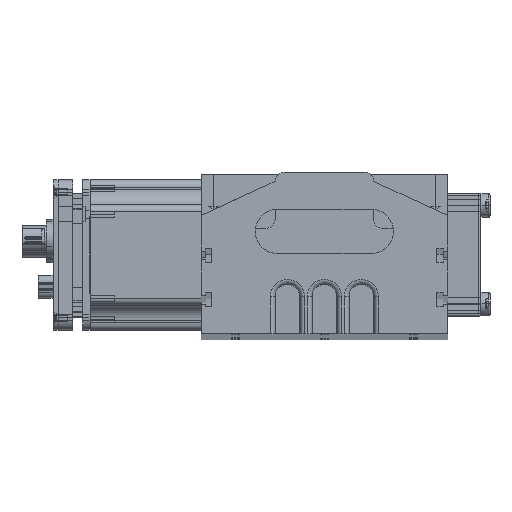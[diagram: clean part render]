
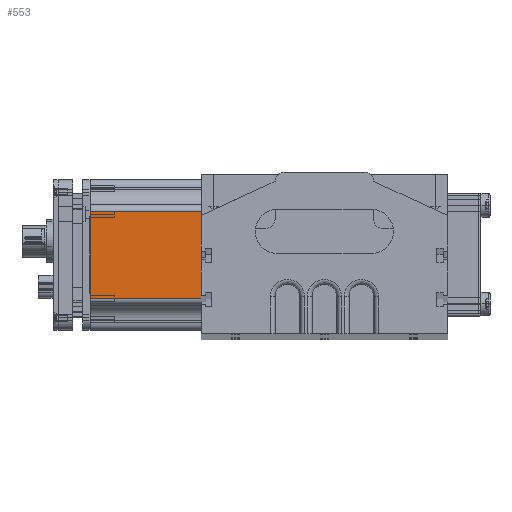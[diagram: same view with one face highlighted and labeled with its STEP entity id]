
A CAD part, top view. The second image highlights one B-rep face of the part: STEP entity #553.
In plain terms, the highlighted planar face has unit normal (0, 0, 1).
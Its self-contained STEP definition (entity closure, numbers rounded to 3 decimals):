
#393 = ORIENTED_EDGE ( 'NONE', *, *, #562, .F. ) ;
#399 = VERTEX_POINT ( 'NONE', #4356 ) ;
#440 = ORIENTED_EDGE ( 'NONE', *, *, #532, .T. ) ;
#481 = EDGE_LOOP ( 'NONE', ( #393, #536, #563, #440, #870, #711, #747, #786 ) ) ;
#532 = EDGE_CURVE ( 'NONE', #46144, #399, #4720, .T. ) ;
#536 = ORIENTED_EDGE ( 'NONE', *, *, #46679, .F. ) ;
#553 = ADVANCED_FACE ( 'NONE', ( #4796 ), #4682, .F. ) ;
#562 = EDGE_CURVE ( 'NONE', #46684, #576, #4854, .T. ) ;
#563 = ORIENTED_EDGE ( 'NONE', *, *, #45634, .F. ) ;
#576 = VERTEX_POINT ( 'NONE', #4840 ) ;
#711 = ORIENTED_EDGE ( 'NONE', *, *, #761, .F. ) ;
#733 = EDGE_CURVE ( 'NONE', #739, #767, #5341, .T. ) ;
#739 = VERTEX_POINT ( 'NONE', #5335 ) ;
#746 = EDGE_CURVE ( 'NONE', #576, #739, #5339, .T. ) ;
#747 = ORIENTED_EDGE ( 'NONE', *, *, #733, .F. ) ;
#761 = EDGE_CURVE ( 'NONE', #767, #787, #5385, .T. ) ;
#764 = EDGE_CURVE ( 'NONE', #787, #399, #5496, .T. ) ;
#767 = VERTEX_POINT ( 'NONE', #5421 ) ;
#786 = ORIENTED_EDGE ( 'NONE', *, *, #746, .F. ) ;
#787 = VERTEX_POINT ( 'NONE', #5446 ) ;
#870 = ORIENTED_EDGE ( 'NONE', *, *, #764, .F. ) ;
#4356 = CARTESIAN_POINT ( 'NONE',  ( 24.5, 0., 30.5 ) ) ;
#4682 = PLANE ( 'NONE',  #4780 ) ;
#4704 = DIRECTION ( 'NONE',  ( 1., 0., 0. ) ) ;
#4706 = VECTOR ( 'NONE', #4704, 1000. ) ;
#4707 = CARTESIAN_POINT ( 'NONE',  ( -24.5, 0., 30.5 ) ) ;
#4720 = LINE ( 'NONE', #4707, #4706 ) ;
#4727 = DIRECTION ( 'NONE',  ( 0., 0., -1. ) ) ;
#4758 = CARTESIAN_POINT ( 'NONE',  ( -17.5, 7., 30.5 ) ) ;
#4761 = DIRECTION ( 'NONE',  ( -1., 0., 0. ) ) ;
#4780 = AXIS2_PLACEMENT_3D ( 'NONE', #4799, #4727, #4761 ) ;
#4796 = FACE_OUTER_BOUND ( 'NONE', #481, .T. ) ;
#4799 = CARTESIAN_POINT ( 'NONE',  ( -24.5, 7., 30.5 ) ) ;
#4822 = DIRECTION ( 'NONE',  ( 0., 1., 0. ) ) ;
#4823 = VECTOR ( 'NONE', #4822, 1000. ) ;
#4840 = CARTESIAN_POINT ( 'NONE',  ( -17.5, 94., 30.5 ) ) ;
#4854 = LINE ( 'NONE', #4758, #4823 ) ;
#5329 = DIRECTION ( 'NONE',  ( 0., -1., 0. ) ) ;
#5330 = VECTOR ( 'NONE', #5329, 1000. ) ;
#5331 = CARTESIAN_POINT ( 'NONE',  ( 17.5, 95.35, 30.5 ) ) ;
#5335 = CARTESIAN_POINT ( 'NONE',  ( 17.5, 94., 30.5 ) ) ;
#5337 = CARTESIAN_POINT ( 'NONE',  ( 26.5, 94., 30.5 ) ) ;
#5339 = LINE ( 'NONE', #5337, #5436 ) ;
#5341 = LINE ( 'NONE', #5331, #5330 ) ;
#5379 = CARTESIAN_POINT ( 'NONE',  ( -24.5, 7., 30.5 ) ) ;
#5385 = LINE ( 'NONE', #5379, #5492 ) ;
#5421 = CARTESIAN_POINT ( 'NONE',  ( 17.5, 7., 30.5 ) ) ;
#5435 = DIRECTION ( 'NONE',  ( 1., 0., 0. ) ) ;
#5436 = VECTOR ( 'NONE', #5435, 1000. ) ;
#5446 = CARTESIAN_POINT ( 'NONE',  ( 24.5, 7., 30.5 ) ) ;
#5479 = DIRECTION ( 'NONE',  ( 0., -1., 0. ) ) ;
#5480 = VECTOR ( 'NONE', #5479, 1000. ) ;
#5491 = DIRECTION ( 'NONE',  ( 1., 0., 0. ) ) ;
#5492 = VECTOR ( 'NONE', #5491, 1000. ) ;
#5494 = CARTESIAN_POINT ( 'NONE',  ( 24.5, 7., 30.5 ) ) ;
#5496 = LINE ( 'NONE', #5494, #5480 ) ;
#6529 = DIRECTION ( 'NONE',  ( 0., 1., 0. ) ) ;
#6531 = VECTOR ( 'NONE', #6529, 1000. ) ;
#6533 = CARTESIAN_POINT ( 'NONE',  ( -24.5, 7., 30.5 ) ) ;
#6534 = LINE ( 'NONE', #6533, #6531 ) ;
#8204 = CARTESIAN_POINT ( 'NONE',  ( -24.5, 0., 30.5 ) ) ;
#9806 = CARTESIAN_POINT ( 'NONE',  ( -24.5, 7., 30.5 ) ) ;
#9809 = LINE ( 'NONE', #9919, #9918 ) ;
#9916 = DIRECTION ( 'NONE',  ( 1., 0., 0. ) ) ;
#9918 = VECTOR ( 'NONE', #9916, 1000. ) ;
#9919 = CARTESIAN_POINT ( 'NONE',  ( -24.5, 7., 30.5 ) ) ;
#9923 = CARTESIAN_POINT ( 'NONE',  ( -17.5, 7., 30.5 ) ) ;
#45634 = EDGE_CURVE ( 'NONE', #46144, #46700, #6534, .T. ) ;
#46144 = VERTEX_POINT ( 'NONE', #8204 ) ;
#46679 = EDGE_CURVE ( 'NONE', #46700, #46684, #9809, .T. ) ;
#46684 = VERTEX_POINT ( 'NONE', #9923 ) ;
#46700 = VERTEX_POINT ( 'NONE', #9806 ) ;
